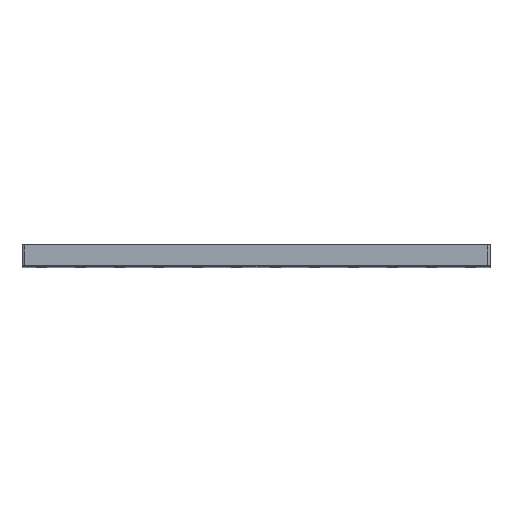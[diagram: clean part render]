
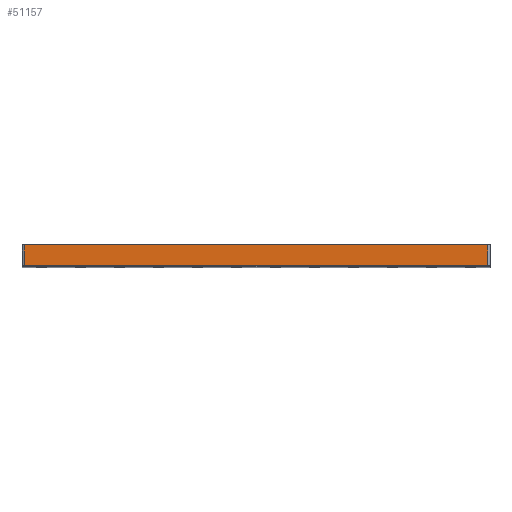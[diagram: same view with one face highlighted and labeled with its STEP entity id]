
A CAD part, top view. The second image highlights one B-rep face of the part: STEP entity #51157.
In plain terms, the highlighted planar face has unit normal (0, 0, 1).
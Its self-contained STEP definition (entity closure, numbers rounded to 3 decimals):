
#18618=CARTESIAN_POINT('',(148.5,0.3,300.));
#18620=CARTESIAN_POINT('',(-148.5,0.3,300.));
#18705=CARTESIAN_POINT('',(-148.5,13.7,300.));
#18707=DIRECTION('',(0.,-1.,0.));
#18708=VECTOR('',#18707,13.4);
#18709=CARTESIAN_POINT('',(148.5,13.7,300.));
#18710=LINE('',#18709,#18708);
#18711=DIRECTION('',(-1.,0.,0.));
#18712=VECTOR('',#18711,297.);
#18713=CARTESIAN_POINT('',(148.5,0.3,300.));
#18714=LINE('',#18713,#18712);
#18715=DIRECTION('',(0.,-1.,0.));
#18716=VECTOR('',#18715,13.4);
#18717=CARTESIAN_POINT('',(-148.5,13.7,300.));
#18718=LINE('',#18717,#18716);
#18719=DIRECTION('',(1.,0.,0.));
#18720=VECTOR('',#18719,297.);
#18721=CARTESIAN_POINT('',(-148.5,13.7,300.));
#18722=LINE('',#18721,#18720);
#23648=VERTEX_POINT('',#18618);
#23649=CARTESIAN_POINT('',(148.5,13.7,300.));
#23650=VERTEX_POINT('',#23649);
#23654=VERTEX_POINT('',#18620);
#23662=VERTEX_POINT('',#18705);
#51146=CARTESIAN_POINT('',(-150.,0.,300.));
#51147=DIRECTION('',(0.,0.,1.));
#51148=DIRECTION('',(1.,0.,0.));
#51149=AXIS2_PLACEMENT_3D('',#51146,#51147,#51148);
#51150=PLANE('',#51149);
#51151=ORIENTED_EDGE('',*,*,#50987,.T.);
#51152=ORIENTED_EDGE('',*,*,#51009,.T.);
#51153=ORIENTED_EDGE('',*,*,#51029,.F.);
#51154=ORIENTED_EDGE('',*,*,#51139,.T.);
#51155=EDGE_LOOP('',(#51151,#51152,#51153,#51154));
#51156=FACE_OUTER_BOUND('',#51155,.F.);
#51157=ADVANCED_FACE('',(#51156),#51150,.T.);
#50987=EDGE_CURVE('',#23650,#23648,#18710,.T.);
#51009=EDGE_CURVE('',#23648,#23654,#18714,.T.);
#51029=EDGE_CURVE('',#23662,#23654,#18718,.T.);
#51139=EDGE_CURVE('',#23662,#23650,#18722,.T.);
